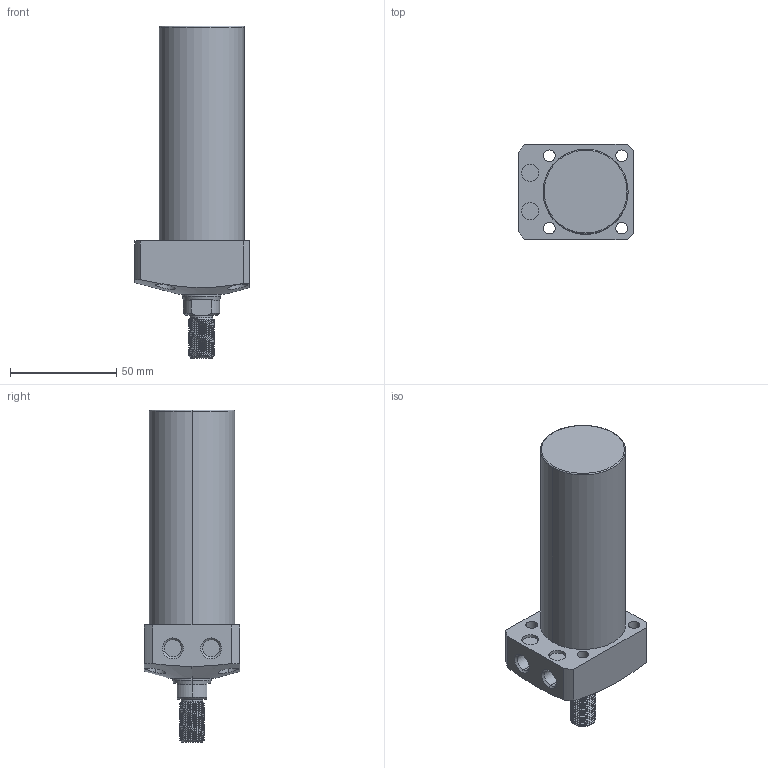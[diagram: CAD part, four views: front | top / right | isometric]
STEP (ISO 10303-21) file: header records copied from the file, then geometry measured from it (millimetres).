
FILE_DESCRIPTION (( 'STEP AP203' ), '1' );
FILE_NAME ('CLL-040CT-075.STEP', '2020-01-08T09:07:01', ( '' ), ( '' ), 'SwSTEP 2.0', 'SolidWorks 2015', '' );
FILE_SCHEMA (( 'CONFIG_CONTROL_DESIGN' ));
Length unit declared in the file: millimetre
Products named in the file (1): CLL-040CT-075
Bounding box: 54 x 45 x 156 mm (x, y, z)
Volume: 180592.6 mm3; surface area: 25562.4 mm2
Topology: 1 solids, 1 shells, 114 faces, 290 edges, 189 vertices
Faces by surface type: cylinder 71, plane 23, cone 16, torus 2, bspline 2
Entity records: 5837 total; most frequent: CARTESIAN_POINT 3188, ORIENTED_EDGE 580, DIRECTION 498, EDGE_CURVE 290, AXIS2_PLACEMENT_3D 198, VERTEX_POINT 189, EDGE_LOOP 133, ADVANCED_FACE 114
